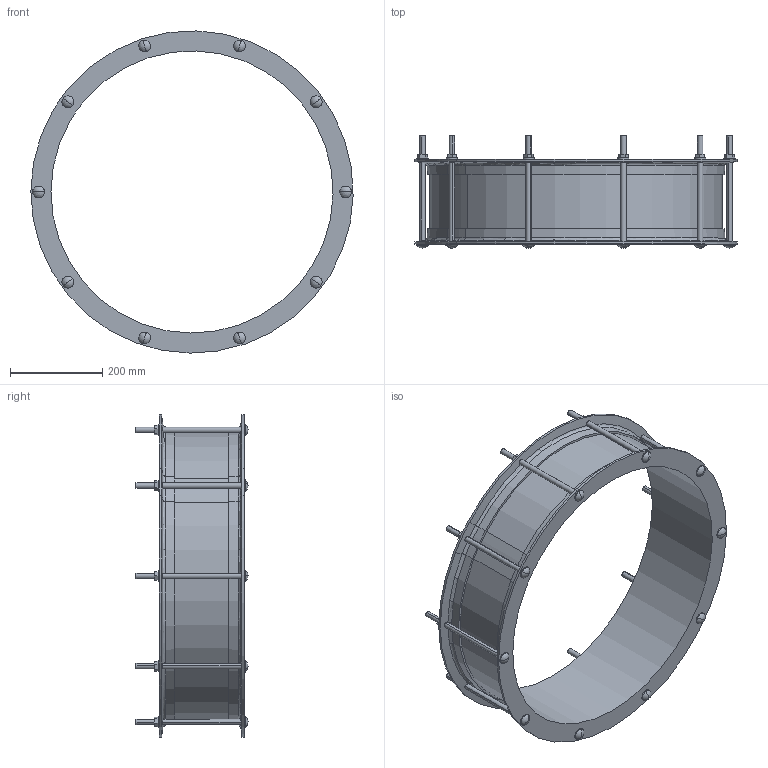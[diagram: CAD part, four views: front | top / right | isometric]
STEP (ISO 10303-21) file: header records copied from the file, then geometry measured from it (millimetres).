
FILE_DESCRIPTION((''),'2;1');
FILE_NAME('LO2_COUP_610','2018-12-06T',('mfairey'),('Glynwed Pipe Systems'),'CREO PARAMETRIC BY PTC INC, 2016130','CREO PARAMETRIC BY PTC INC, 2016130','');
FILE_SCHEMA(('CONFIG_CONTROL_DESIGN'));
Length unit declared in the file: millimetre
Products named in the file (1): LO2_COUP_610
Bounding box: 700.12 x 243.33 x 700.02 mm (x, y, z)
Volume: 5805472.1 mm3; surface area: 1103682.7 mm2
Topology: 1 solids, 1 shells, 214 faces, 568 edges, 358 vertices
Faces by surface type: plane 94, cylinder 88, sphere 20, cone 8, torus 4
Entity records: 7470 total; most frequent: CARTESIAN_POINT 2160, ORIENTED_EDGE 1096, DIRECTION 1088, EDGE_CURVE 548, AXIS2_PLACEMENT_3D 406, VERTEX_POINT 358, VECTOR 276, LINE 276
